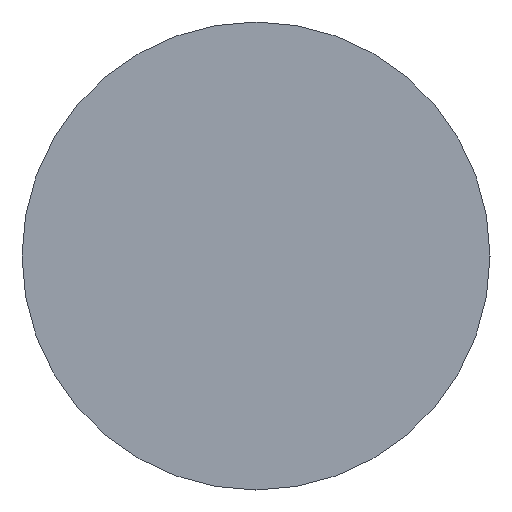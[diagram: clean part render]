
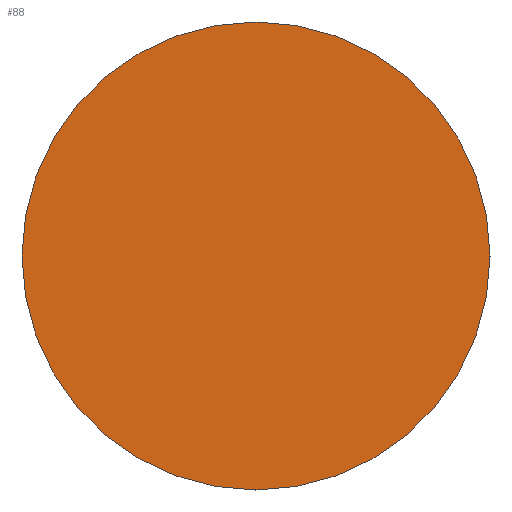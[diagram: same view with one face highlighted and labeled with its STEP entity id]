
A CAD part, left-side view. The second image highlights one B-rep face of the part: STEP entity #88.
In plain terms, the highlighted planar face has unit normal (-1, 0, 0).
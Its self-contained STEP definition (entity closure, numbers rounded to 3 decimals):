
#24 = VERTEX_POINT ( 'NONE', #237 ) ;
#39 = EDGE_LOOP ( 'NONE', ( #179, #100 ) ) ;
#52 = DIRECTION ( 'NONE',  ( 0., 0., -1. ) ) ;
#63 = AXIS2_PLACEMENT_3D ( 'NONE', #120, #264, #309 ) ;
#65 = DIRECTION ( 'NONE',  ( 1., 0., 0. ) ) ;
#83 = CARTESIAN_POINT ( 'NONE',  ( -93., 0., 0. ) ) ;
#88 = ADVANCED_FACE ( 'NONE', ( #302 ), #140, .F. ) ;
#97 = CIRCLE ( 'NONE', #63, 10. ) ;
#98 = CARTESIAN_POINT ( 'NONE',  ( -93., 0., -10. ) ) ;
#100 = ORIENTED_EDGE ( 'NONE', *, *, #151, .T. ) ;
#118 = AXIS2_PLACEMENT_3D ( 'NONE', #83, #290, #342 ) ;
#120 = CARTESIAN_POINT ( 'NONE',  ( -93., 0., 0. ) ) ;
#140 = PLANE ( 'NONE',  #271 ) ;
#151 = EDGE_CURVE ( 'NONE', #214, #24, #230, .T. ) ;
#179 = ORIENTED_EDGE ( 'NONE', *, *, #245, .T. ) ;
#203 = CARTESIAN_POINT ( 'NONE',  ( -93., 10., 0. ) ) ;
#214 = VERTEX_POINT ( 'NONE', #98 ) ;
#230 = CIRCLE ( 'NONE', #118, 10. ) ;
#237 = CARTESIAN_POINT ( 'NONE',  ( -93., 0., 10. ) ) ;
#245 = EDGE_CURVE ( 'NONE', #24, #214, #97, .T. ) ;
#264 = DIRECTION ( 'NONE',  ( -1., 0., 0. ) ) ;
#271 = AXIS2_PLACEMENT_3D ( 'NONE', #203, #65, #52 ) ;
#290 = DIRECTION ( 'NONE',  ( -1., 0., 0. ) ) ;
#302 = FACE_OUTER_BOUND ( 'NONE', #39, .T. ) ;
#309 = DIRECTION ( 'NONE',  ( 0., 0., 1. ) ) ;
#342 = DIRECTION ( 'NONE',  ( 0., 0., 1. ) ) ;
